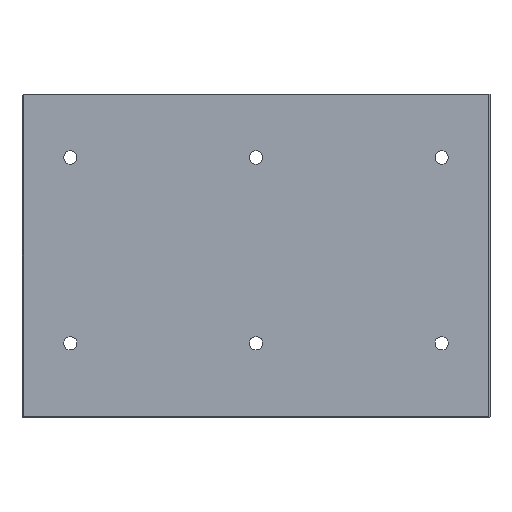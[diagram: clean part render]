
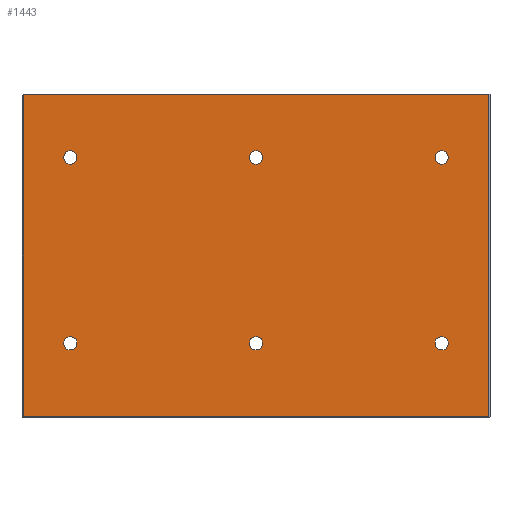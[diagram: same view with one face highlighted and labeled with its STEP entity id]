
A CAD part, front view. The second image highlights one B-rep face of the part: STEP entity #1443.
In plain terms, the highlighted planar face has unit normal (0, -1, 0).
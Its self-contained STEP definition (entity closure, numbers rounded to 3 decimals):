
#177=DIRECTION('',(0.,0.,-1.));
#178=VECTOR('',#177,433.5);
#179=CARTESIAN_POINT('',(313.5,0.,435.));
#180=LINE('',#179,#178);
#181=DIRECTION('',(-1.,0.,0.));
#182=VECTOR('',#181,627.);
#183=CARTESIAN_POINT('',(313.5,0.,1.5));
#184=LINE('',#183,#182);
#185=DIRECTION('',(0.,0.,1.));
#186=VECTOR('',#185,433.5);
#187=CARTESIAN_POINT('',(-313.5,0.,1.5));
#188=LINE('',#187,#186);
#189=DIRECTION('',(1.,0.,0.));
#190=VECTOR('',#189,627.);
#191=CARTESIAN_POINT('',(-313.5,0.,435.));
#192=LINE('',#191,#190);
#193=CARTESIAN_POINT('',(250.,0.,100.));
#194=DIRECTION('',(0.,1.,0.));
#195=DIRECTION('',(1.,0.,0.));
#196=AXIS2_PLACEMENT_3D('',#193,#194,#195);
#198=CARTESIAN_POINT('',(250.,0.,100.));
#199=DIRECTION('',(0.,1.,0.));
#200=DIRECTION('',(-1.,0.,0.));
#201=AXIS2_PLACEMENT_3D('',#198,#199,#200);
#203=CARTESIAN_POINT('',(250.,0.,350.));
#204=DIRECTION('',(0.,1.,0.));
#205=DIRECTION('',(1.,0.,0.));
#206=AXIS2_PLACEMENT_3D('',#203,#204,#205);
#208=CARTESIAN_POINT('',(250.,0.,350.));
#209=DIRECTION('',(0.,1.,0.));
#210=DIRECTION('',(-1.,0.,0.));
#211=AXIS2_PLACEMENT_3D('',#208,#209,#210);
#213=CARTESIAN_POINT('',(0.,0.,100.));
#214=DIRECTION('',(0.,1.,0.));
#215=DIRECTION('',(1.,0.,0.));
#216=AXIS2_PLACEMENT_3D('',#213,#214,#215);
#218=CARTESIAN_POINT('',(0.,0.,100.));
#219=DIRECTION('',(0.,1.,0.));
#220=DIRECTION('',(-1.,0.,0.));
#221=AXIS2_PLACEMENT_3D('',#218,#219,#220);
#223=CARTESIAN_POINT('',(0.,0.,350.));
#224=DIRECTION('',(0.,1.,0.));
#225=DIRECTION('',(1.,0.,0.));
#226=AXIS2_PLACEMENT_3D('',#223,#224,#225);
#228=CARTESIAN_POINT('',(0.,0.,350.));
#229=DIRECTION('',(0.,1.,0.));
#230=DIRECTION('',(-1.,0.,0.));
#231=AXIS2_PLACEMENT_3D('',#228,#229,#230);
#233=CARTESIAN_POINT('',(-250.,0.,100.));
#234=DIRECTION('',(0.,1.,0.));
#235=DIRECTION('',(1.,0.,0.));
#236=AXIS2_PLACEMENT_3D('',#233,#234,#235);
#238=CARTESIAN_POINT('',(-250.,0.,100.));
#239=DIRECTION('',(0.,1.,0.));
#240=DIRECTION('',(-1.,0.,0.));
#241=AXIS2_PLACEMENT_3D('',#238,#239,#240);
#243=CARTESIAN_POINT('',(-250.,0.,350.));
#244=DIRECTION('',(0.,1.,0.));
#245=DIRECTION('',(1.,0.,0.));
#246=AXIS2_PLACEMENT_3D('',#243,#244,#245);
#248=CARTESIAN_POINT('',(-250.,0.,350.));
#249=DIRECTION('',(0.,1.,0.));
#250=DIRECTION('',(-1.,0.,0.));
#251=AXIS2_PLACEMENT_3D('',#248,#249,#250);
#909=CARTESIAN_POINT('',(313.5,0.,435.));
#911=VERTEX_POINT('',#909);
#915=CARTESIAN_POINT('',(313.5,0.,1.5));
#916=VERTEX_POINT('',#915);
#921=CARTESIAN_POINT('',(-313.5,0.,1.5));
#922=VERTEX_POINT('',#921);
#935=CARTESIAN_POINT('',(-313.5,0.,435.));
#936=VERTEX_POINT('',#935);
#1009=CARTESIAN_POINT('',(259.,0.,100.));
#1010=CARTESIAN_POINT('',(241.,0.,100.));
#1011=VERTEX_POINT('',#1009);
#1012=VERTEX_POINT('',#1010);
#1025=CARTESIAN_POINT('',(259.,0.,350.));
#1026=CARTESIAN_POINT('',(241.,0.,350.));
#1027=VERTEX_POINT('',#1025);
#1028=VERTEX_POINT('',#1026);
#1041=CARTESIAN_POINT('',(9.,0.,100.));
#1042=VERTEX_POINT('',#1041);
#1043=CARTESIAN_POINT('',(-9.,0.,100.));
#1044=VERTEX_POINT('',#1043);
#1057=CARTESIAN_POINT('',(9.,0.,350.));
#1058=VERTEX_POINT('',#1057);
#1059=CARTESIAN_POINT('',(-9.,0.,350.));
#1060=VERTEX_POINT('',#1059);
#1073=CARTESIAN_POINT('',(-241.,0.,100.));
#1074=VERTEX_POINT('',#1073);
#1075=CARTESIAN_POINT('',(-259.,0.,100.));
#1076=VERTEX_POINT('',#1075);
#1089=CARTESIAN_POINT('',(-241.,0.,350.));
#1090=VERTEX_POINT('',#1089);
#1091=CARTESIAN_POINT('',(-259.,0.,350.));
#1092=VERTEX_POINT('',#1091);
#1396=CARTESIAN_POINT('',(-315.,0.,435.));
#1397=DIRECTION('',(0.,-1.,0.));
#1398=DIRECTION('',(0.,0.,-1.));
#1399=AXIS2_PLACEMENT_3D('',#1396,#1397,#1398);
#1400=PLANE('',#1399);
#1401=ORIENTED_EDGE('',*,*,#1391,.T.);
#1402=ORIENTED_EDGE('',*,*,#1156,.T.);
#1403=ORIENTED_EDGE('',*,*,#1173,.T.);
#1404=ORIENTED_EDGE('',*,*,#1358,.T.);
#1405=EDGE_LOOP('',(#1401,#1402,#1403,#1404));
#1406=FACE_OUTER_BOUND('',#1405,.F.);
#1408=ORIENTED_EDGE('',*,*,#1407,.F.);
#1410=ORIENTED_EDGE('',*,*,#1409,.F.);
#1411=EDGE_LOOP('',(#1408,#1410));
#1412=FACE_BOUND('',#1411,.F.);
#1414=ORIENTED_EDGE('',*,*,#1413,.F.);
#1416=ORIENTED_EDGE('',*,*,#1415,.F.);
#1417=EDGE_LOOP('',(#1414,#1416));
#1418=FACE_BOUND('',#1417,.F.);
#1420=ORIENTED_EDGE('',*,*,#1419,.F.);
#1422=ORIENTED_EDGE('',*,*,#1421,.F.);
#1423=EDGE_LOOP('',(#1420,#1422));
#1424=FACE_BOUND('',#1423,.F.);
#1426=ORIENTED_EDGE('',*,*,#1425,.F.);
#1428=ORIENTED_EDGE('',*,*,#1427,.F.);
#1429=EDGE_LOOP('',(#1426,#1428));
#1430=FACE_BOUND('',#1429,.F.);
#1432=ORIENTED_EDGE('',*,*,#1431,.F.);
#1434=ORIENTED_EDGE('',*,*,#1433,.F.);
#1435=EDGE_LOOP('',(#1432,#1434));
#1436=FACE_BOUND('',#1435,.F.);
#1438=ORIENTED_EDGE('',*,*,#1437,.F.);
#1440=ORIENTED_EDGE('',*,*,#1439,.F.);
#1441=EDGE_LOOP('',(#1438,#1440));
#1442=FACE_BOUND('',#1441,.F.);
#1443=ADVANCED_FACE('',(#1406,#1412,#1418,#1424,#1430,#1436,#1442),#1400,.T.);
#197=CIRCLE('',#196,9.);
#202=CIRCLE('',#201,9.);
#207=CIRCLE('',#206,9.);
#212=CIRCLE('',#211,9.);
#217=CIRCLE('',#216,9.);
#222=CIRCLE('',#221,9.);
#227=CIRCLE('',#226,9.);
#232=CIRCLE('',#231,9.);
#237=CIRCLE('',#236,9.);
#242=CIRCLE('',#241,9.);
#247=CIRCLE('',#246,9.);
#252=CIRCLE('',#251,9.);
#1156=EDGE_CURVE('',#916,#922,#184,.T.);
#1173=EDGE_CURVE('',#922,#936,#188,.T.);
#1358=EDGE_CURVE('',#936,#911,#192,.T.);
#1391=EDGE_CURVE('',#911,#916,#180,.T.);
#1407=EDGE_CURVE('',#1011,#1012,#197,.T.);
#1409=EDGE_CURVE('',#1012,#1011,#202,.T.);
#1413=EDGE_CURVE('',#1027,#1028,#207,.T.);
#1415=EDGE_CURVE('',#1028,#1027,#212,.T.);
#1419=EDGE_CURVE('',#1042,#1044,#217,.T.);
#1421=EDGE_CURVE('',#1044,#1042,#222,.T.);
#1425=EDGE_CURVE('',#1058,#1060,#227,.T.);
#1427=EDGE_CURVE('',#1060,#1058,#232,.T.);
#1431=EDGE_CURVE('',#1074,#1076,#237,.T.);
#1433=EDGE_CURVE('',#1076,#1074,#242,.T.);
#1437=EDGE_CURVE('',#1090,#1092,#247,.T.);
#1439=EDGE_CURVE('',#1092,#1090,#252,.T.);
